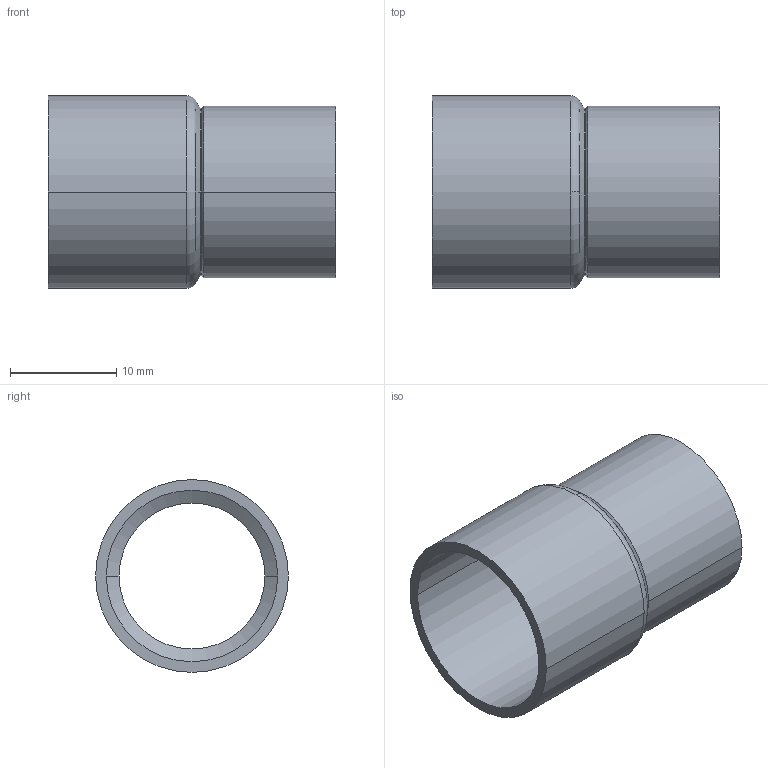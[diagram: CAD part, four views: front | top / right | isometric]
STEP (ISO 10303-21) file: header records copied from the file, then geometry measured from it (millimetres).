
FILE_DESCRIPTION((''),'2;1');
FILE_NAME('G:\Technics\CAD\Bauteile\Serie 15240\152401614.stp','2005-10-21T12:51:04',('boden'),(''),'Autodesk Inventor 8','Autodesk Inventor 8','');
FILE_SCHEMA(('AUTOMOTIVE_DESIGN { 1 0 10303 214 1 1 1 1 }'));
Length unit declared in the file: millimetre
Products named in the file (1): 152401614
Bounding box: 27 x 18.11 x 18.11 mm (x, y, z)
Volume: 1401.5 mm3; surface area: 2903.9 mm2
Topology: 1 solids, 1 shells, 24 faces, 52 edges, 30 vertices
Faces by surface type: cylinder 12, cone 8, torus 2, plane 2
Entity records: 683 total; most frequent: DIRECTION 134, CARTESIAN_POINT 107, ORIENTED_EDGE 104, AXIS2_PLACEMENT_3D 57, EDGE_CURVE 52, CIRCLE 32, VERTEX_POINT 30, EDGE_LOOP 26
